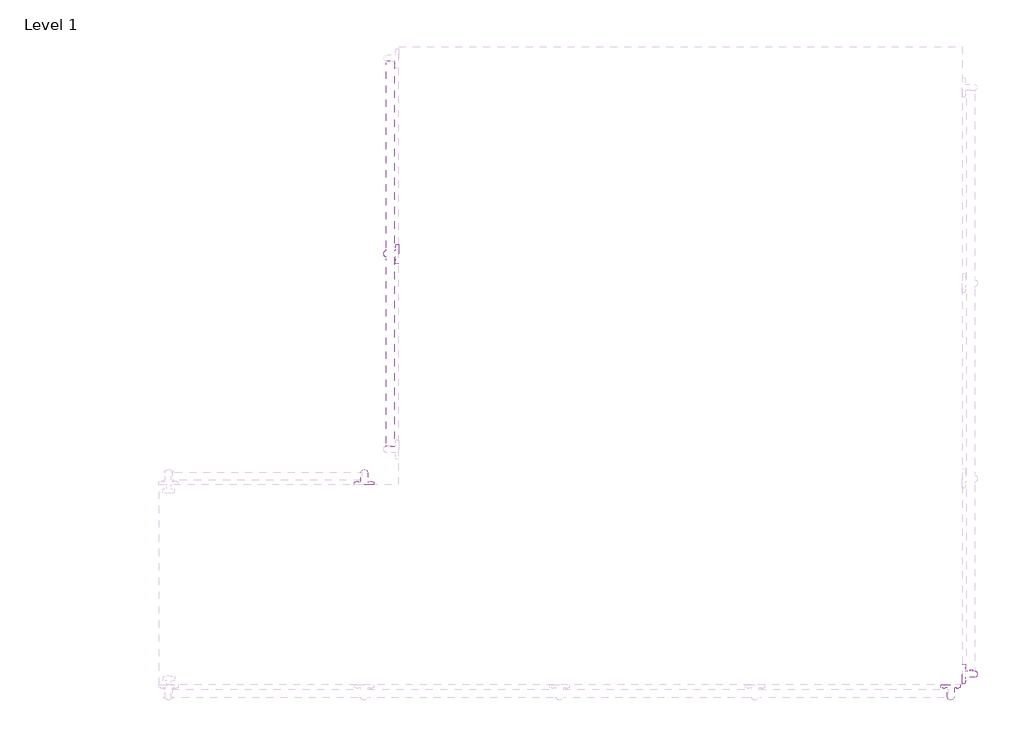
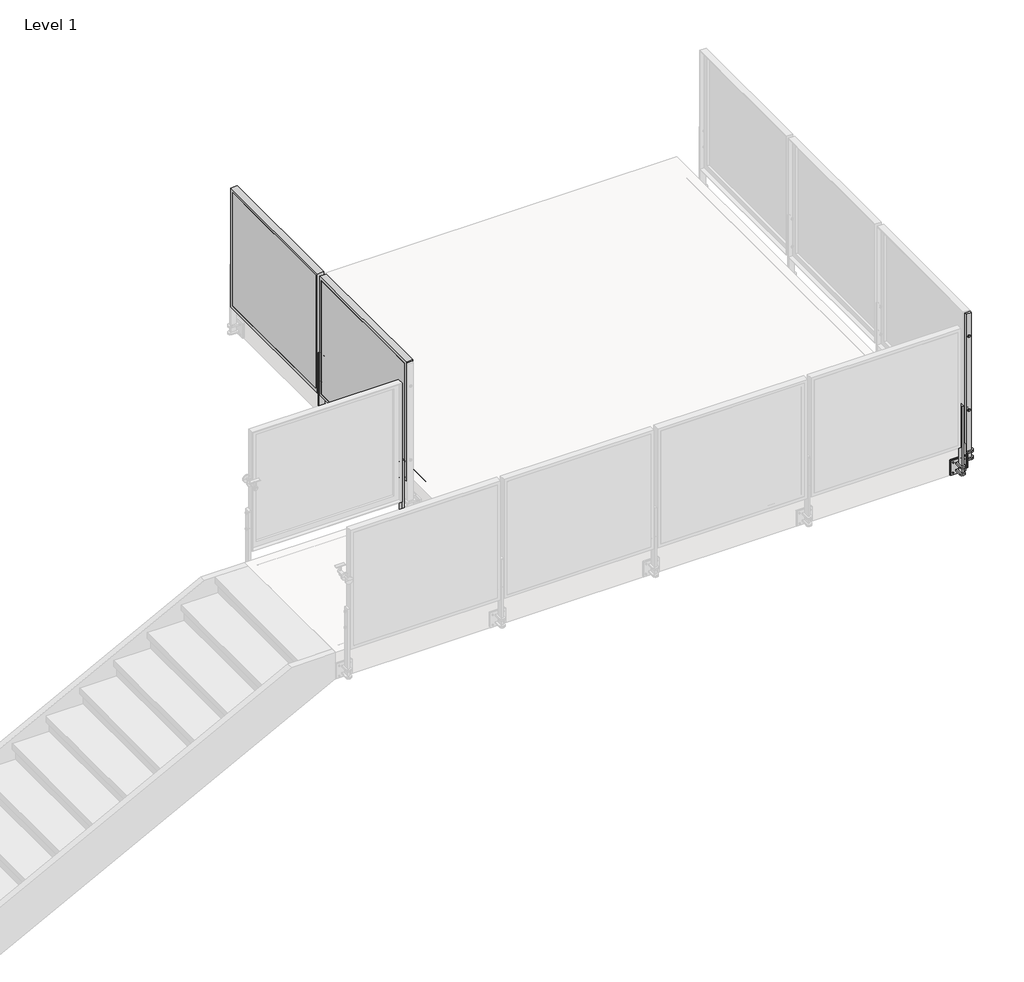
# One storey, part 20 of 37: 3 proxies, 1 railing.
"""IFC4 building model written with IfcOpenShell, lengths in millimetres."""

from ifc_helpers import new_model, si_unit, point, frame, frame_2d, origin, place, context, project, spatial, polyline, circle_curve, trimmed, segment, composite_curve, outline, extrude, faceted_brep, transform, mapped, element, save
from ifc_brep_helpers import plane_surface, cylinder_surface, advanced_brep
from components import baluster_end_post_viva_frame_top_mount_welded_fascia_mount_f3869cb3, baluster_end_post_viva_frame_top_mount_welded_fascia_mount_b105cd36

model = new_model("IFC4")

# Units and contexts
model_context = context("Model", 3, world=origin())
ifc_project = project(units=[si_unit("LENGTHUNIT", "METRE", prefix="MILLI")], contexts=[model_context])

# Site, building, storey
site = spatial("IfcSite", under=ifc_project)
building = spatial("IfcBuilding", under=site)
storey = spatial("IfcBuildingStorey", under=building, Name="Level 1", Elevation=0.0)

# Proxies
placement = place(None, origin())
baluster_end_post_viva_frame_top_mount_welded_fascia_mount_shape = baluster_end_post_viva_frame_top_mount_welded_fascia_mount_f3869cb3(model_context)
element("IfcBuildingElementProxy", 1, Name="Baluster-End-Post-VIVA-FRAME-Top Mount : WELDED Fascia MOUNT FOLD_STRAIGHT", ObjectType="Baluster-End-Post-VIVA-FRAME-Top Mount : WELDED Fascia MOUNT FOLD_STRAIGHT", at=placement, inside=storey, context=model_context, shape_type="MappedRepresentation", body=[
    mapped(baluster_end_post_viva_frame_top_mount_welded_fascia_mount_shape, transform((-27936.1434339, -3841.0034112, 3047.492), x_axis=(1.0, 0.0, 0.0), y_axis=(0.0, 1.0, 0.0), z_axis=(0.0, 0.0, 1.0))),
])
element("IfcBuildingElementProxy", 2, Name="Baluster-End-Post-VIVA-FRAME-Top Mount : WELDED Fascia MOUNT FOLD_STRAIGHT", ObjectType="Baluster-End-Post-VIVA-FRAME-Top Mount : WELDED Fascia MOUNT FOLD_STRAIGHT", at=placement, inside=storey, context=model_context, shape_type="MappedRepresentation", body=[
    mapped(baluster_end_post_viva_frame_top_mount_welded_fascia_mount_shape, transform((-31745.9500753, -2684.7736112, 3047.492), x_axis=(-1.0, 0.0, 0.0), y_axis=(0.0, -1.0, 0.0), z_axis=(0.0, 0.0, 1.0))),
])
baluster_end_post_viva_frame_top_mount_welded_fascia_mount_2_shape = baluster_end_post_viva_frame_top_mount_welded_fascia_mount_b105cd36(model_context)
element("IfcBuildingElementProxy", 3, Name="Baluster-End-Post-VIVA-FRAME-Top Mount : WELDED Fascia MOUNT FOLD_STRAIGHT", ObjectType="Baluster-End-Post-VIVA-FRAME-Top Mount : WELDED Fascia MOUNT FOLD_STRAIGHT", at=placement, inside=storey, context=model_context, shape_type="MappedRepresentation", body=[
    mapped(baluster_end_post_viva_frame_top_mount_welded_fascia_mount_2_shape, transform((-27933.3000339, -3842.9169538, 3047.492), x_axis=(0.0, 1.0, 0.0), y_axis=(-1.0, 0.0, 0.0), z_axis=(0.0, 0.0, 1.0))),
])

# Railing
element("IfcRailing", 4, ObjectType="Metal-Panel-VIVA-FRAME-Fascia-Straight", at=placement, inside=storey, context=model_context, shape_type="SolidModel", body=[
    extrude(outline(composite_curve([segment(trimmed(circle_curve(frame_2d((3047.746, -31448.8776401)), 0.254), [point((3047.746, -31448.6236401))], [point((3047.746, -31449.1316401))], False, "CARTESIAN"), True, "CONTINUOUS"), segment(trimmed(circle_curve(frame_2d((3047.746, -31448.8776401)), 0.254), [point((3047.746, -31449.1316401))], [point((3047.746, -31448.6236401))], False, "CARTESIAN"), True, "CONTINUOUS")], self_intersect=False)), frame((0.0, -2383.0312725, 0.0), z_axis=(0.0, 1.0, 0.0), x_axis=(0.0, 0.0, 1.0)), (0.0, 0.0, 1.0), 2540.0),
    extrude(outline(composite_curve([segment(trimmed(circle_curve(frame_2d((3047.746, -31448.8776401)), 0.254), [point((3047.746, -31448.6236401))], [point((3047.746, -31449.1316401))], False, "CARTESIAN"), True, "CONTINUOUS"), segment(trimmed(circle_curve(frame_2d((3047.746, -31448.8776401)), 0.254), [point((3047.746, -31449.1316401))], [point((3047.746, -31448.6236401))], False, "CARTESIAN"), True, "CONTINUOUS")], self_intersect=False)), frame((0.0, -2383.0312725, 0.0), z_axis=(0.0, 1.0, 0.0), x_axis=(0.0, 0.0, 1.0)), (0.0, 0.0, 1.0), 2540.0),
    extrude(outline(polyline([(-31603.3364401, -1072.2048155), (-31603.3364401, 116.1422706), (-31600.3364401, 116.1422706), (-31600.3364401, -1072.2048155), (-31603.3364401, -1072.2048155)])), frame((0.0, 0.0, 3124.1959569), z_axis=(0.0, 0.0, 1.0), x_axis=(1.0, 0.0, 0.0)), (0.0, 0.0, 1.0), 990.5826861),
    faceted_brep([(-31603.3364401, -1097.6048155, 4140.1786431), (-31603.3364401, 141.5422706, 4140.1786431), (-31603.3364401, 141.5422706, 3098.7959569), (-31603.3364401, -1097.6048155, 3098.7959569), (-31603.3364401, -1072.2048155, 4114.7786431), (-31603.3364401, -1072.2048155, 3124.1959569), (-31603.3364401, 116.1422706, 3124.1959569), (-31603.3364401, 116.1422706, 4114.7786431), (-31600.3364401, -1072.2048155, 3124.1959569), (-31600.3364401, 116.1422706, 3124.1959569), (-31600.3364401, 116.1422706, 4114.7786431), (-31600.3364401, -1072.2048155, 4114.7786431), (-31549.5364401, -1091.6104155, 3104.7903569), (-31549.5364401, 135.5478706, 3104.7903569), (-31580.3466401, 135.5478706, 3104.7903569), (-31580.3466401, -1091.6104155, 3104.7903569), (-31549.5364401, 135.5478706, 4134.1842431), (-31580.3466401, 135.5478706, 4134.1842431), (-31580.3466401, -1091.6104155, 4134.1842431), (-31549.5364401, -1091.6104155, 4134.1842431), (-31549.5364401, 141.5422706, 3098.7959569), (-31549.5364401, 141.5422706, 4140.1786431), (-31549.5364401, -1097.6048155, 4140.1786431), (-31549.5364401, -1097.6048155, 3098.7959569), (-31600.3364401, -1046.8048155, 4089.3786431), (-31600.3364401, -1046.8048155, 3149.5959569), (-31600.3364401, 90.7422706, 3149.5959569), (-31600.3364401, 90.7422706, 4089.3786431), (-31580.3466401, 90.7422706, 3149.5959569), (-31580.3466401, -1046.8048155, 3149.5959569), (-31580.3466401, -1046.8048155, 4089.3786431), (-31580.3466401, 90.7422706, 4089.3786431)], [[[0, 1, 2, 3], [4, 5, 6, 7]], [[5, 8, 9, 6]], [[6, 9, 10, 7]], [[7, 10, 11, 4]], [[4, 11, 8, 5]], [[12, 13, 14, 15]], [[13, 16, 17, 14]], [[15, 18, 19, 12]], [[20, 21, 22, 23], [12, 19, 16, 13]], [[23, 22, 0, 3]], [[23, 3, 2, 20]], [[2, 1, 21, 20]], [[22, 21, 1, 0]], [[11, 10, 9, 8], [24, 25, 26, 27]], [[14, 17, 18, 15], [28, 29, 30, 31]], [[18, 17, 16, 19]], [[27, 31, 30, 24]], [[26, 28, 31, 27]], [[25, 29, 28, 26]], [[24, 30, 29, 25]]]),
    extrude(outline(composite_curve([segment(trimmed(circle_curve(frame_2d((-31597.7613468, -1113.0312725)), 22.225), [point((-31597.7613468, -1135.2562725))], [point((-31597.7613468, -1090.8062725))], False, "CARTESIAN"), True, "CONTINUOUS"), segment(polyline([(-31597.7613468, -1090.8062725), (-31539.8604401, -1090.8062725), (-31539.8604401, -1135.2562725), (-31597.7613468, -1135.2562725)]), True, "CONTINUOUS")], self_intersect=False)), frame((0.0, 0.0, 2859.0748), z_axis=(0.0, 0.0, 1.0), x_axis=(1.0, 0.0, 0.0)), (0.0, 0.0, 1.0), 12.7),
    extrude(outline(composite_curve([segment(polyline([(-31539.8604401, -1090.8062725), (-31539.8604401, -1135.2562725), (-31597.7613468, -1135.2562725)]), True, "CONTINUOUS"), segment(trimmed(circle_curve(frame_2d((-31597.7613468, -1113.0312725)), 22.225), [point((-31597.7613468, -1135.2562725))], [point((-31597.7613468, -1090.8062725))], False, "CARTESIAN"), True, "CONTINUOUS"), segment(polyline([(-31597.7613468, -1090.8062725), (-31539.8604401, -1090.8062725)]), True, "CONTINUOUS")], self_intersect=False)), frame((0.0, 0.0, 2921.0), z_axis=(0.0, 0.0, 1.0), x_axis=(1.0, 0.0, 0.0)), (0.0, 0.0, 1.0), 12.7),
    extrude(outline(composite_curve([segment(trimmed(circle_curve(frame_2d((-1068.5863406, 2941.6502)), 4.7752), [point((-1063.8111406, 2941.6502))], [point((-1073.3615406, 2941.6502))], False, "CARTESIAN"), True, "CONTINUOUS"), segment(trimmed(circle_curve(frame_2d((-1068.5863406, 2941.6502)), 4.7752), [point((-1073.3615406, 2941.6502))], [point((-1063.8111406, 2941.6502))], False, "CARTESIAN"), True, "CONTINUOUS")], self_intersect=False)), frame((-31544.6356401, 0.0, 0.0), z_axis=(1.0, 0.0, 0.0), x_axis=(0.0, 1.0, 0.0)), (0.0, 0.0, 1.0), 14.3002),
    extrude(outline(composite_curve([segment(trimmed(circle_curve(frame_2d((-1157.4762044, 2941.6502)), 4.7752), [point((-1152.7010044, 2941.6502))], [point((-1162.2514044, 2941.6502))], False, "CARTESIAN"), True, "CONTINUOUS"), segment(trimmed(circle_curve(frame_2d((-1157.4762044, 2941.6502)), 4.7752), [point((-1162.2514044, 2941.6502))], [point((-1152.7010044, 2941.6502))], False, "CARTESIAN"), True, "CONTINUOUS")], self_intersect=False)), frame((-31544.6356401, 0.0, 0.0), z_axis=(1.0, 0.0, 0.0), x_axis=(0.0, 1.0, 0.0)), (0.0, 0.0, 1.0), 14.3002),
    extrude(outline(composite_curve([segment(trimmed(circle_curve(frame_2d((-1157.4762044, 2852.7502)), 4.7752), [point((-1152.7010044, 2852.7502))], [point((-1162.2514044, 2852.7502))], False, "CARTESIAN"), True, "CONTINUOUS"), segment(trimmed(circle_curve(frame_2d((-1157.4762044, 2852.7502)), 4.7752), [point((-1162.2514044, 2852.7502))], [point((-1152.7010044, 2852.7502))], False, "CARTESIAN"), True, "CONTINUOUS")], self_intersect=False)), frame((-31544.6356401, 0.0, 0.0), z_axis=(1.0, 0.0, 0.0), x_axis=(0.0, 1.0, 0.0)), (0.0, 0.0, 1.0), 14.3002),
    extrude(outline(composite_curve([segment(trimmed(circle_curve(frame_2d((-1068.5863406, 2852.7502)), 4.7752), [point((-1063.8111406, 2852.7502))], [point((-1073.3615406, 2852.7502))], False, "CARTESIAN"), True, "CONTINUOUS"), segment(trimmed(circle_curve(frame_2d((-1068.5863406, 2852.7502)), 4.7752), [point((-1073.3615406, 2852.7502))], [point((-1063.8111406, 2852.7502))], False, "CARTESIAN"), True, "CONTINUOUS")], self_intersect=False)), frame((-31544.6356401, 0.0, 0.0), z_axis=(1.0, 0.0, 0.0), x_axis=(0.0, 1.0, 0.0)), (0.0, 0.0, 1.0), 14.3002),
    extrude(outline(polyline([(-31530.3354401, -1049.5332509), (-31520.8104401, -1049.5332509), (-31520.8104401, -1176.529294), (-31530.3354401, -1176.529294), (-31530.3354401, -1049.5332509)])), frame((0.0, 0.0, 2833.7002), z_axis=(0.0, 0.0, 1.0), x_axis=(1.0, 0.0, 0.0)), (0.0, 0.0, 1.0), 127.0),
    extrude(outline(polyline([(-31539.8604401, -1049.5332509), (-31530.3354401, -1049.5332509), (-31530.3354401, -1176.529294), (-31539.8604401, -1176.529294), (-31539.8604401, -1049.5332509)])), frame((0.0, 0.0, 2833.7002), z_axis=(0.0, 0.0, 1.0), x_axis=(1.0, 0.0, 0.0)), (0.0, 0.0, 1.0), 127.0),
    advanced_brep(
    [(-31577.9604401, -1139.2186725, 3178.1496), (-31577.9604401, -1139.2186725, 3187.7), (-31577.9604401, -1139.2186725, 3197.2504), (-31577.9604401, -1134.4434725, 3178.1496), (-31577.9604401, -1134.4434725, 3197.2504), (-31577.9604401, -1134.4434725, 3182.9248), (-31577.9604401, -1134.4434725, 3192.4752), (-31577.9604401, -1091.6190725, 3182.9248), (-31577.9604401, -1091.6190725, 3192.4752), (-31577.9604401, -1091.6190725, 3178.1496), (-31577.9604401, -1091.6190725, 3197.2504), (-31577.9604401, -1086.8438725, 3178.1496), (-31577.9604401, -1086.8438725, 3197.2504), (-31577.9604401, -1086.8438725, 3187.7)],
    [
        (0, 1),
        (1, 2),
        (2, 0, circle_curve(frame((-31577.9604401, -1139.2186725, 3187.7), z_axis=(0.0, -1.0, 0.0), x_axis=(0.0, 0.0, 1.0)), 9.5504)),
        (0, 2, circle_curve(frame((-31577.9604401, -1139.2186725, 3187.7), z_axis=(0.0, -1.0, 0.0), x_axis=(0.0, 0.0, 1.0)), 9.5504)),
        (3, 0),
        (2, 4),
        (4, 3, circle_curve(frame((-31577.9604401, -1134.4434725, 3187.7), z_axis=(0.0, -1.0, 0.0), x_axis=(0.0, 0.0, 1.0)), 9.5504)),
        (3, 4, circle_curve(frame((-31577.9604401, -1134.4434725, 3187.7), z_axis=(0.0, -1.0, 0.0), x_axis=(0.0, 0.0, 1.0)), 9.5504)),
        (5, 3),
        (4, 6),
        (6, 5, circle_curve(frame((-31577.9604401, -1134.4434725, 3187.7), z_axis=(0.0, -1.0, 0.0), x_axis=(0.0, 0.0, 1.0)), 4.7752)),
        (5, 6, circle_curve(frame((-31577.9604401, -1134.4434725, 3187.7), z_axis=(0.0, -1.0, 0.0), x_axis=(0.0, 0.0, 1.0)), 4.7752)),
        (7, 5),
        (6, 8),
        (8, 7, circle_curve(frame((-31577.9604401, -1091.6190725, 3187.7), z_axis=(0.0, -1.0, 0.0), x_axis=(0.0, 0.0, 1.0)), 4.7752)),
        (7, 8, circle_curve(frame((-31577.9604401, -1091.6190725, 3187.7), z_axis=(0.0, -1.0, 0.0), x_axis=(0.0, 0.0, 1.0)), 4.7752)),
        (9, 7),
        (8, 10),
        (10, 9, circle_curve(frame((-31577.9604401, -1091.6190725, 3187.7), z_axis=(0.0, -1.0, 0.0), x_axis=(0.0, 0.0, 1.0)), 9.5504)),
        (9, 10, circle_curve(frame((-31577.9604401, -1091.6190725, 3187.7), z_axis=(0.0, -1.0, 0.0), x_axis=(0.0, 0.0, 1.0)), 9.5504)),
        (11, 9),
        (10, 12),
        (12, 11, circle_curve(frame((-31577.9604401, -1086.8438725, 3187.7), z_axis=(0.0, -1.0, 0.0), x_axis=(0.0, 0.0, 1.0)), 9.5504)),
        (11, 12, circle_curve(frame((-31577.9604401, -1086.8438725, 3187.7), z_axis=(0.0, -1.0, 0.0), x_axis=(0.0, 0.0, 1.0)), 9.5504)),
        (13, 11),
        (12, 13),
    ],
    [
        plane_surface(frame((-31577.9604401, -1139.2186725, 3187.7), z_axis=(0.0, -1.0, 0.0), x_axis=(0.0, 0.0, 1.0))),
        cylinder_surface(frame((-31577.9604401, -4530.7990296, 3187.7), z_axis=(0.0, 1.0, 0.0), x_axis=(0.0, 0.0, 1.0)), 9.5504),
        plane_surface(frame((-31577.9604401, -1134.4434725, 3187.7), z_axis=(0.0, 1.0, 0.0), x_axis=(0.0, 0.0, 1.0))),
        cylinder_surface(frame((-31577.9604401, -4530.7990296, 3187.7), z_axis=(0.0, 1.0, 0.0), x_axis=(0.0, 0.0, 1.0)), 4.7752),
        plane_surface(frame((-31577.9604401, -1091.6190725, 3187.7), z_axis=(0.0, -1.0, 0.0), x_axis=(0.0, 0.0, 1.0))),
        plane_surface(frame((-31577.9604401, -1086.8438725, 3187.7), z_axis=(0.0, 1.0, 0.0), x_axis=(0.0, 0.0, 1.0))),
    ],
    [
        (0, [[1, 2, 3]]),
        (0, [[-2, -1, 4]]),
        (1, [[5, -3, 6, 7]]),
        (1, [[-6, -4, -5, 8]]),
        (2, [[9, -7, 10, 11]]),
        (2, [[-10, -8, -9, 12]]),
        (3, [[13, -11, 14, 15]]),
        (3, [[-14, -12, -13, 16]]),
        (4, [[17, -15, 18, 19]]),
        (4, [[-18, -16, -17, 20]]),
        (1, [[21, -19, 22, 23]]),
        (1, [[-22, -20, -21, 24]]),
        (5, [[25, -23, 26]]),
        (5, [[-26, -24, -25]]),
    ],
),
    advanced_brep(
    [(-31577.9604401, -1139.2186725, 3419.4496), (-31577.9604401, -1139.2186725, 3429.0), (-31577.9604401, -1139.2186725, 3438.5504), (-31577.9604401, -1134.4434725, 3419.4496), (-31577.9604401, -1134.4434725, 3438.5504), (-31577.9604401, -1134.4434725, 3424.2248), (-31577.9604401, -1134.4434725, 3433.7752), (-31577.9604401, -1091.6190725, 3424.2248), (-31577.9604401, -1091.6190725, 3433.7752), (-31577.9604401, -1091.6190725, 3419.4496), (-31577.9604401, -1091.6190725, 3438.5504), (-31577.9604401, -1086.8438725, 3419.4496), (-31577.9604401, -1086.8438725, 3438.5504), (-31577.9604401, -1086.8438725, 3429.0)],
    [
        (0, 1),
        (1, 2),
        (2, 0, circle_curve(frame((-31577.9604401, -1139.2186725, 3429.0), z_axis=(0.0, -1.0, 0.0), x_axis=(0.0, 0.0, 1.0)), 9.5504)),
        (0, 2, circle_curve(frame((-31577.9604401, -1139.2186725, 3429.0), z_axis=(0.0, -1.0, 0.0), x_axis=(0.0, 0.0, 1.0)), 9.5504)),
        (3, 0),
        (2, 4),
        (4, 3, circle_curve(frame((-31577.9604401, -1134.4434725, 3429.0), z_axis=(0.0, -1.0, 0.0), x_axis=(0.0, 0.0, 1.0)), 9.5504)),
        (3, 4, circle_curve(frame((-31577.9604401, -1134.4434725, 3429.0), z_axis=(0.0, -1.0, 0.0), x_axis=(0.0, 0.0, 1.0)), 9.5504)),
        (5, 3),
        (4, 6),
        (6, 5, circle_curve(frame((-31577.9604401, -1134.4434725, 3429.0), z_axis=(0.0, -1.0, 0.0), x_axis=(0.0, 0.0, 1.0)), 4.7752)),
        (5, 6, circle_curve(frame((-31577.9604401, -1134.4434725, 3429.0), z_axis=(0.0, -1.0, 0.0), x_axis=(0.0, 0.0, 1.0)), 4.7752)),
        (7, 5),
        (6, 8),
        (8, 7, circle_curve(frame((-31577.9604401, -1091.6190725, 3429.0), z_axis=(0.0, -1.0, 0.0), x_axis=(0.0, 0.0, 1.0)), 4.7752)),
        (7, 8, circle_curve(frame((-31577.9604401, -1091.6190725, 3429.0), z_axis=(0.0, -1.0, 0.0), x_axis=(0.0, 0.0, 1.0)), 4.7752)),
        (9, 7),
        (8, 10),
        (10, 9, circle_curve(frame((-31577.9604401, -1091.6190725, 3429.0), z_axis=(0.0, -1.0, 0.0), x_axis=(0.0, 0.0, 1.0)), 9.5504)),
        (9, 10, circle_curve(frame((-31577.9604401, -1091.6190725, 3429.0), z_axis=(0.0, -1.0, 0.0), x_axis=(0.0, 0.0, 1.0)), 9.5504)),
        (11, 9),
        (10, 12),
        (12, 11, circle_curve(frame((-31577.9604401, -1086.8438725, 3429.0), z_axis=(0.0, -1.0, 0.0), x_axis=(0.0, 0.0, 1.0)), 9.5504)),
        (11, 12, circle_curve(frame((-31577.9604401, -1086.8438725, 3429.0), z_axis=(0.0, -1.0, 0.0), x_axis=(0.0, 0.0, 1.0)), 9.5504)),
        (13, 11),
        (12, 13),
    ],
    [
        plane_surface(frame((-31577.9604401, -1139.2186725, 3429.0), z_axis=(0.0, -1.0, 0.0), x_axis=(0.0, 0.0, 1.0))),
        cylinder_surface(frame((-31577.9604401, -4530.7990296, 3429.0), z_axis=(0.0, 1.0, 0.0), x_axis=(0.0, 0.0, 1.0)), 9.5504),
        plane_surface(frame((-31577.9604401, -1134.4434725, 3429.0), z_axis=(0.0, 1.0, 0.0), x_axis=(0.0, 0.0, 1.0))),
        cylinder_surface(frame((-31577.9604401, -4530.7990296, 3429.0), z_axis=(0.0, 1.0, 0.0), x_axis=(0.0, 0.0, 1.0)), 4.7752),
        plane_surface(frame((-31577.9604401, -1091.6190725, 3429.0), z_axis=(0.0, -1.0, 0.0), x_axis=(0.0, 0.0, 1.0))),
        plane_surface(frame((-31577.9604401, -1086.8438725, 3429.0), z_axis=(0.0, 1.0, 0.0), x_axis=(0.0, 0.0, 1.0))),
    ],
    [
        (0, [[1, 2, 3]]),
        (0, [[-2, -1, 4]]),
        (1, [[5, -3, 6, 7]]),
        (1, [[-6, -4, -5, 8]]),
        (2, [[9, -7, 10, 11]]),
        (2, [[-10, -8, -9, 12]]),
        (3, [[13, -11, 14, 15]]),
        (3, [[-14, -12, -13, 16]]),
        (4, [[17, -15, 18, 19]]),
        (4, [[-18, -16, -17, 20]]),
        (1, [[21, -19, 22, 23]]),
        (1, [[-22, -20, -21, 24]]),
        (5, [[25, -23, 26]]),
        (5, [[-26, -24, -25]]),
    ],
),
    extrude(outline(polyline([(-31555.7354401, -1120.9708641), (-31600.1854401, -1120.9708641), (-31600.1854401, -1105.0916808), (-31555.7354401, -1105.0916808), (-31555.7354401, -1120.9708641)])), frame((0.0, 0.0, 2865.4248), z_axis=(0.0, 0.0, 1.0), x_axis=(1.0, 0.0, 0.0)), (0.0, 0.0, 1.0), 588.9752),
    extrude(outline(polyline([(-31603.3364401, -2342.2048155), (-31603.3364401, -1153.8577294), (-31600.3364401, -1153.8577294), (-31600.3364401, -2342.2048155), (-31603.3364401, -2342.2048155)])), frame((0.0, 0.0, 3124.1959569), z_axis=(0.0, 0.0, 1.0), x_axis=(1.0, 0.0, 0.0)), (0.0, 0.0, 1.0), 990.5826861),
    faceted_brep([(-31603.3364401, -2367.6048155, 4140.1786431), (-31603.3364401, -1128.4577294, 4140.1786431), (-31603.3364401, -1128.4577294, 3098.7959569), (-31603.3364401, -2367.6048155, 3098.7959569), (-31603.3364401, -2342.2048155, 4114.7786431), (-31603.3364401, -2342.2048155, 3124.1959569), (-31603.3364401, -1153.8577294, 3124.1959569), (-31603.3364401, -1153.8577294, 4114.7786431), (-31600.3364401, -2342.2048155, 3124.1959569), (-31600.3364401, -1153.8577294, 3124.1959569), (-31600.3364401, -1153.8577294, 4114.7786431), (-31600.3364401, -2342.2048155, 4114.7786431), (-31549.5364401, -2361.6104155, 3104.7903569), (-31549.5364401, -1134.4521294, 3104.7903569), (-31580.3466401, -1134.4521294, 3104.7903569), (-31580.3466401, -2361.6104155, 3104.7903569), (-31549.5364401, -1134.4521294, 4134.1842431), (-31580.3466401, -1134.4521294, 4134.1842431), (-31580.3466401, -2361.6104155, 4134.1842431), (-31549.5364401, -2361.6104155, 4134.1842431), (-31549.5364401, -1128.4577294, 3098.7959569), (-31549.5364401, -1128.4577294, 4140.1786431), (-31549.5364401, -2367.6048155, 4140.1786431), (-31549.5364401, -2367.6048155, 3098.7959569), (-31600.3364401, -2316.8048155, 4089.3786431), (-31600.3364401, -2316.8048155, 3149.5959569), (-31600.3364401, -1179.2577294, 3149.5959569), (-31600.3364401, -1179.2577294, 4089.3786431), (-31580.3466401, -1179.2577294, 3149.5959569), (-31580.3466401, -2316.8048155, 3149.5959569), (-31580.3466401, -2316.8048155, 4089.3786431), (-31580.3466401, -1179.2577294, 4089.3786431)], [[[0, 1, 2, 3], [4, 5, 6, 7]], [[5, 8, 9, 6]], [[6, 9, 10, 7]], [[7, 10, 11, 4]], [[4, 11, 8, 5]], [[12, 13, 14, 15]], [[13, 16, 17, 14]], [[15, 18, 19, 12]], [[20, 21, 22, 23], [12, 19, 16, 13]], [[23, 22, 0, 3]], [[23, 3, 2, 20]], [[2, 1, 21, 20]], [[22, 21, 1, 0]], [[11, 10, 9, 8], [24, 25, 26, 27]], [[14, 17, 18, 15], [28, 29, 30, 31]], [[18, 17, 16, 19]], [[27, 31, 30, 24]], [[26, 28, 31, 27]], [[25, 29, 28, 26]], [[24, 30, 29, 25]]]),
])

save(model, "model.ifc")
